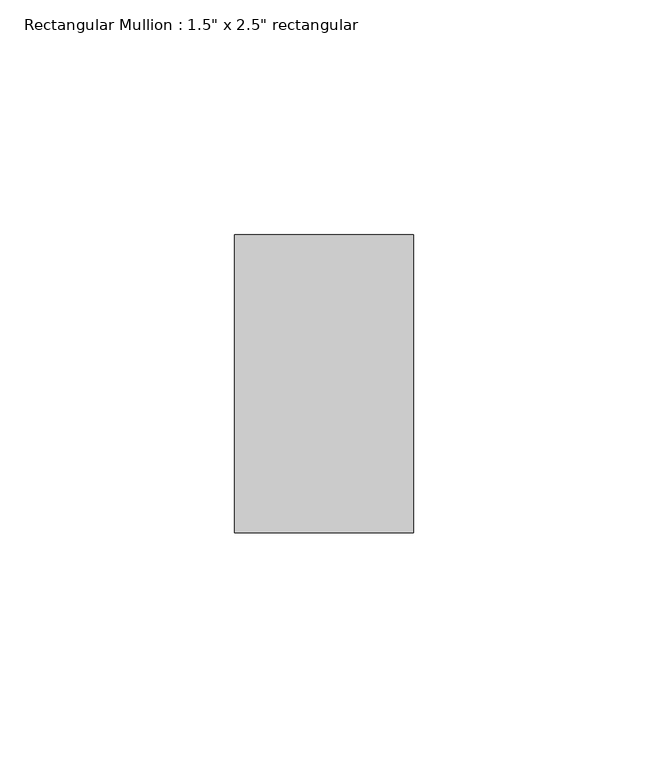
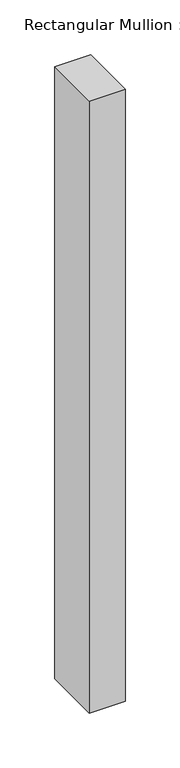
"""IFC4 building model written with IfcOpenShell, lengths in millimetres: member geometry."""

from ifc_helpers import new_model, si_unit, frame, origin, place, context, project, spatial, polyline, outline, extrude, source, transform, mapped, element, save


def member_0534a094(model_context):
    return source(origin(), model_context, "Body", "SweptSolid", [
        extrude(outline(polyline([(19.05, 31.75), (19.05, -31.75), (-19.05, -31.75), (-19.05, 31.75), (19.05, 31.75)])), frame((0.0, 0.0, -684.2676137), z_axis=(0.0, 0.0, 1.0), x_axis=(1.0, 0.0, 0.0)), (0.0, 0.0, 1.0), 684.2676137),
    ])


if __name__ == "__main__":
    model = new_model("IFC4")
    model_context = context("Model", 3, world=origin())
    ifc_project = project(units=[si_unit("LENGTHUNIT", "METRE", prefix="MILLI")], contexts=[model_context])
    site = spatial("IfcSite", under=ifc_project)
    building = spatial("IfcBuilding", under=site)
    placement = place(None, origin())
    member_shape = member_0534a094(model_context)
    element("IfcMember", 1, ObjectType="Rectangular Mullion : 1.5\" x 2.5\" rectangular", at=placement, inside=building, context=model_context, shape_type="MappedRepresentation", body=[
        mapped(member_shape, transform((0.0, 0.0, 0.0), x_axis=(1.0, 0.0, 0.0), y_axis=(0.0, 1.0, 0.0), z_axis=(0.0, 0.0, 1.0))),
    ])
    save(model, "model.ifc")
